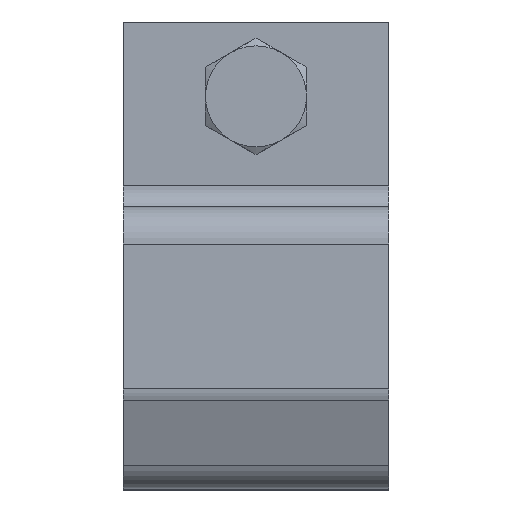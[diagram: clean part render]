
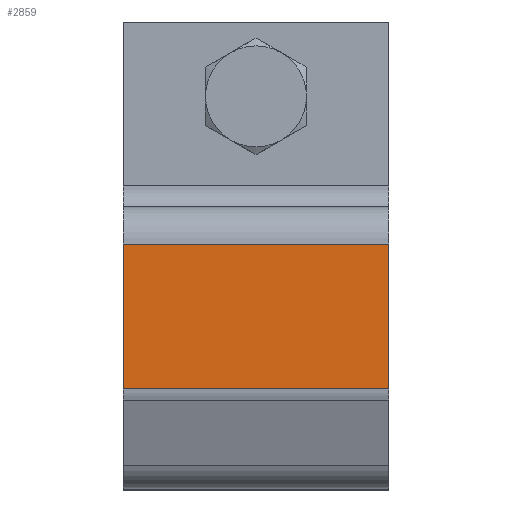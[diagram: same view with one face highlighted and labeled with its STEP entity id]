
A CAD part, top view. The second image highlights one B-rep face of the part: STEP entity #2859.
In plain terms, the highlighted planar face has unit normal (0, -0.009, 1) as drawn and (0, -0.009, -1) by its records, which use the part's own axes.
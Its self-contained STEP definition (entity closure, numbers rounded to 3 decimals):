
#121=PLANE('',#3048);
#208=FACE_OUTER_BOUND('',#380,.T.);
#380=EDGE_LOOP('',(#1992,#1993,#1994,#1995));
#733=LINE('',#4346,#971);
#744=LINE('',#4374,#982);
#748=LINE('',#4384,#986);
#754=LINE('',#4399,#992);
#971=VECTOR('',#3410,50.);
#982=VECTOR('',#3443,50.);
#986=VECTOR('',#3453,27.259);
#992=VECTOR('',#3471,27.259);
#1206=VERTEX_POINT('',#4343);
#1207=VERTEX_POINT('',#4345);
#1212=VERTEX_POINT('',#4372);
#1213=VERTEX_POINT('',#4373);
#1493=EDGE_CURVE('',#1206,#1207,#733,.T.);
#1507=EDGE_CURVE('',#1212,#1213,#744,.T.);
#1513=EDGE_CURVE('',#1207,#1213,#748,.T.);
#1521=EDGE_CURVE('',#1212,#1206,#754,.T.);
#1992=ORIENTED_EDGE('',*,*,#1507,.T.);
#1993=ORIENTED_EDGE('',*,*,#1513,.F.);
#1994=ORIENTED_EDGE('',*,*,#1493,.F.);
#1995=ORIENTED_EDGE('',*,*,#1521,.F.);
#2859=ADVANCED_FACE('',(#208),#121,.T.);
#3048=AXIS2_PLACEMENT_3D('',#4400,#3472,#3473);
#3410=DIRECTION('',(1.,0.,0.));
#3443=DIRECTION('',(1.,0.,0.));
#3453=DIRECTION('',(0.,1.,-0.009));
#3471=DIRECTION('',(0.,-1.,0.009));
#3472=DIRECTION('center_axis',(0.,-0.009,
-1.));
#3473=DIRECTION('ref_axis',(0.,1.,-0.009));
#4343=CARTESIAN_POINT('',(-25.,-55.052,-23.773));
#4345=CARTESIAN_POINT('',(25.,-55.052,-23.773));
#4346=CARTESIAN_POINT('',(-25.,-55.052,-23.773));
#4372=CARTESIAN_POINT('',(-25.,-27.794,-24.011));
#4373=CARTESIAN_POINT('',(25.,-27.794,-24.011));
#4374=CARTESIAN_POINT('',(0.,-27.794,-24.011));
#4384=CARTESIAN_POINT('',(25.,-14.967,-24.123));
#4399=CARTESIAN_POINT('',(-25.,-27.794,-24.011));
#4400=CARTESIAN_POINT('Origin',(0.,-38.056,
-23.921));
